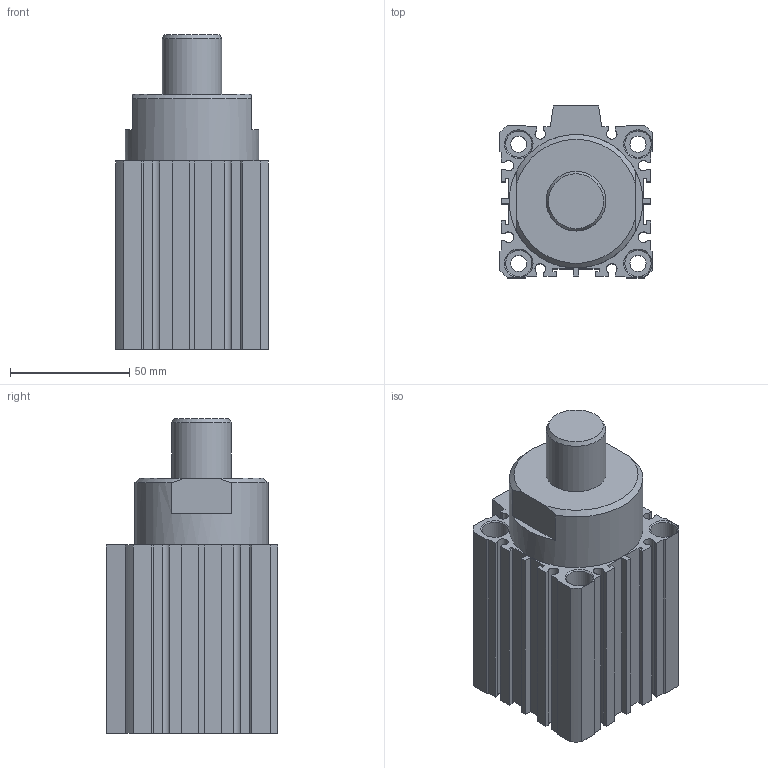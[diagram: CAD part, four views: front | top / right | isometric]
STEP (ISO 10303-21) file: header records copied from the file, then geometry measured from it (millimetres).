
FILE_DESCRIPTION((''),'2;1');
FILE_NAME('I:\3D電子目錄\氣缸\STB\STB\STB50\STB50x25.stp','2007-09-19T14:01:13',('Administrator'),(''),'Autodesk Inventor 11','Autodesk Inventor 11','');
FILE_SCHEMA(('AUTOMOTIVE_DESIGN { 1 0 10303 214 1 1 1 1 }'));
Length unit declared in the file: millimetre
Products named in the file (1): STB50
Bounding box: 64 x 72 x 132 mm (x, y, z)
Volume: 357865.9 mm3; surface area: 56118 mm2
Topology: 1 solids, 1 shells, 163 faces, 425 edges, 276 vertices
Faces by surface type: plane 110, cylinder 32, cone 17, bspline 3, torus 1
Full cylindrical faces by diameter (mm): 2.7 x2, 6.8 x4, 11 x8, 25 x1, 37 x1, 52 x2, 55 x1, 56 x1
Entity records: 4773 total; most frequent: CARTESIAN_POINT 891, DIRECTION 786, ORIENTED_EDGE 754, EDGE_CURVE 377, VECTOR 280, LINE 280, VERTEX_POINT 266, AXIS2_PLACEMENT_3D 253
